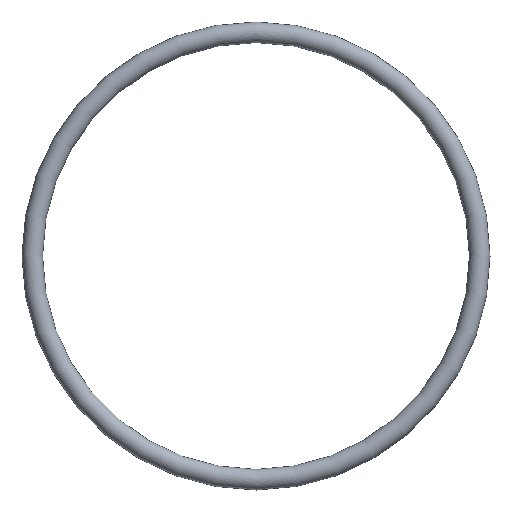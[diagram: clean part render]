
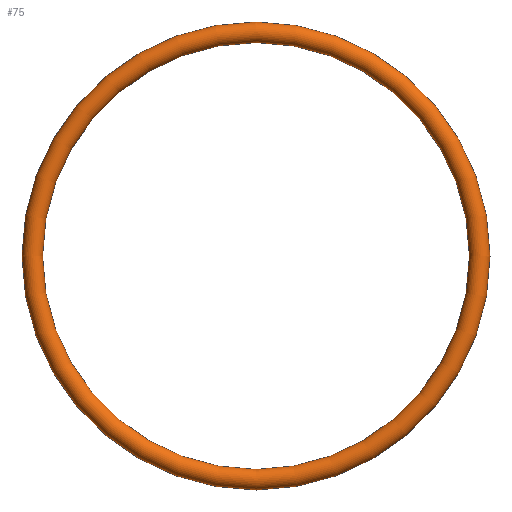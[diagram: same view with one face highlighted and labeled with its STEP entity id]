
A CAD part, front view. The second image highlights one B-rep face of the part: STEP entity #75.
In plain terms, the highlighted toroidal (fillet/blend) face has major radius 32.5 mm and minor radius 1.5 mm.
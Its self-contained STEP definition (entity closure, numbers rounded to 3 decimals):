
#75 = ADVANCED_FACE( '', ( #77 ), #78, .T. );
#77 = FACE_BOUND( '', #79, .T. );
#78 = TOROIDAL_SURFACE( '', #80, 32.5, 1.5 );
#79 = VERTEX_LOOP( '', #81 );
#80 = AXIS2_PLACEMENT_3D( '', #82, #83, #84 );
#81 = VERTEX_POINT( '', #85 );
#82 = CARTESIAN_POINT( '', ( 0., 0., 0. ) );
#83 = DIRECTION( '', ( 0., -1., 0. ) );
#84 = DIRECTION( '', ( 0., 0., -1. ) );
#85 = CARTESIAN_POINT( '', ( 0., 0., -34. ) );
